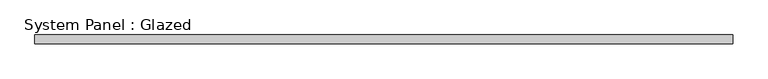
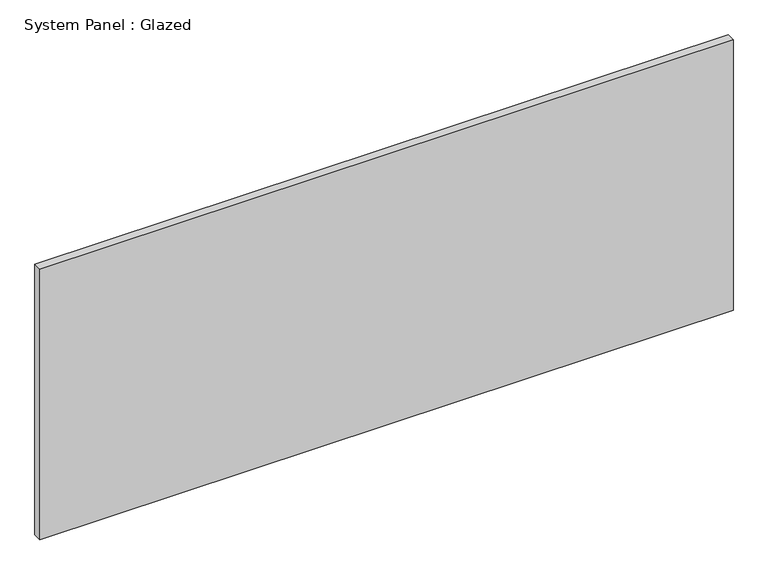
"""IFC4 building model written with IfcOpenShell, lengths in millimetres: plate geometry, System Panel : Glazed."""

from ifc_helpers import new_model, si_unit, origin, origin_with_axes, place, context, project, spatial, polyline, outline, extrude, source, transform, mapped, element, save


def system_panel_glazed_ebf72a38(model_context):
    return source(origin(), model_context, "Body", "SweptSolid", [
        extrude(outline(polyline([(1000.0, 24.5), (-1000.0, 24.5), (-1000.0, 49.5), (1000.0, 49.5), (1000.0, 24.5)])), origin_with_axes(), (0.0, 0.0, 1.0), 825.0),
    ])


if __name__ == "__main__":
    model = new_model("IFC4")
    model_context = context("Model", 3, world=origin())
    ifc_project = project(units=[si_unit("LENGTHUNIT", "METRE", prefix="MILLI")], contexts=[model_context])
    site = spatial("IfcSite", under=ifc_project)
    building = spatial("IfcBuilding", under=site)
    placement = place(None, origin())
    system_panel_glazed_shape = system_panel_glazed_ebf72a38(model_context)
    element("IfcPlate", 1, ObjectType="System Panel : Glazed", at=placement, inside=building, context=model_context, shape_type="MappedRepresentation", body=[
        mapped(system_panel_glazed_shape, transform((0.0, 0.0, 0.0), x_axis=(1.0, 0.0, 0.0), y_axis=(0.0, 1.0, 0.0), z_axis=(0.0, 0.0, 1.0))),
    ])
    save(model, "model.ifc")
